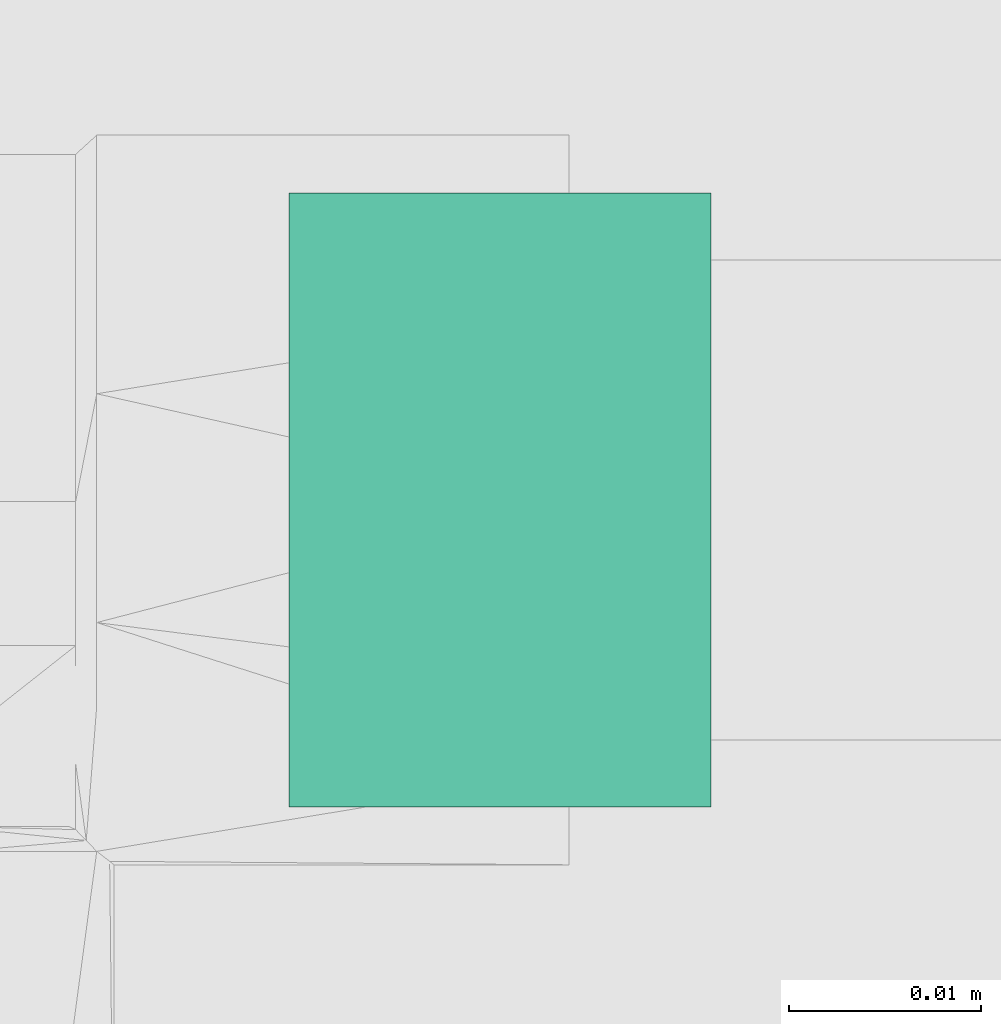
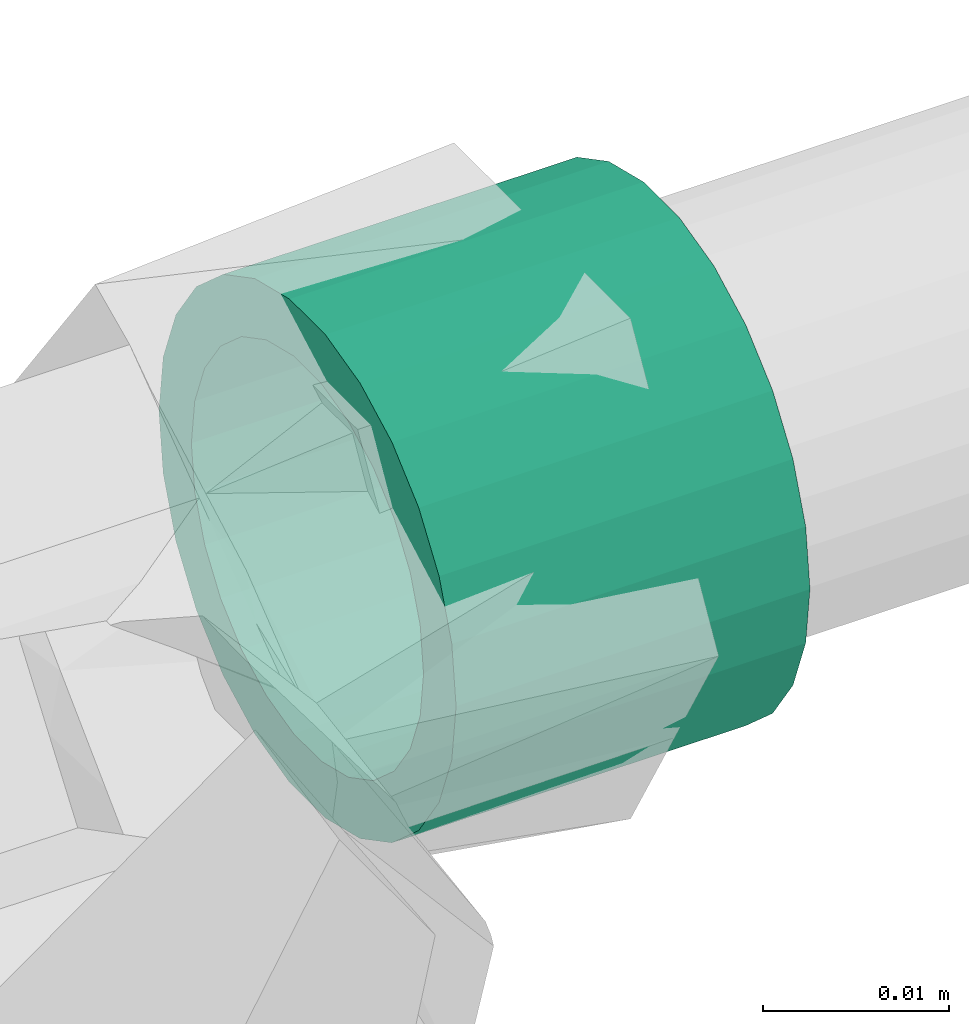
# One storey, part 152 of 166: 1 flow fitting.
"""IFC2X3 building model written with IfcOpenShell, lengths in metres."""

from ifc_helpers import new_model, entity, si_unit, converted_unit, direction, frame, frame_2d, origin, place, context, subcontext, project, spatial, hollow_circle, extrude, source, transform, mapped, material, type_object, type_shapes, element, save


model = new_model("IFC2X3")

# Units and contexts
model_context = context("Model", 3, precision=1e-05, world=origin(), true_north=direction((6.123233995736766e-17, 1.0)))
body_context = subcontext(model_context, "Body", "Model", "MODEL_VIEW")
ifc_project = project(units=[si_unit("LENGTHUNIT", "METRE"), converted_unit("PLANEANGLEUNIT", "DEGREE", entity("IfcPlaneAngleMeasure", 0.017453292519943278), si_unit("PLANEANGLEUNIT", "RADIAN"), dimensions=[0, 0, 0, 0, 0, 0, 0]), si_unit("AREAUNIT", "SQUARE_METRE")], contexts=[model_context])

# Site, building, storey
site_placement = place(None, origin())
site = spatial("IfcSite", under=ifc_project, at=site_placement, Name="Default", CompositionType="ELEMENT")
building_placement = place(site_placement, origin())
building = spatial("IfcBuilding", under=site, at=building_placement, Name="CASA DE ACOLHIDA PARA IDOSOS", CompositionType="ELEMENT")
storey_placement = place(building_placement, frame((0.0, 0.0, -1.7499999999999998)))
storey = spatial("IfcBuildingStorey", under=building, at=storey_placement, Name="IMPLANTAÇÃO DRENAGEM", CompositionType="ELEMENT", Elevation=-1.7499999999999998)

# Flow fitting
ifc_material = material(Name="PVC Marrom")
pipe_fitting_type = type_object("IfcPipeFittingType", Name="AF_Soldavel_Bucha de Reducao Curta:Standard", PredefinedType="NOTDEFINED", material=ifc_material)
shared_shape = source(origin(), body_context, "Body", "SweptSolid", [
    extrude(hollow_circle(Radius=0.016, WallThickness=0.0034999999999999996, at=frame_2d((0.0, -7.20339910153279e-17), x_axis=(1.0, 0.0))), frame((0.0, 0.0, 0.0), z_axis=(1.0, 0.0, 0.0), x_axis=(0.0, 1.0, 0.0)), (0.0, 0.0, 1.0), 0.02200000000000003),
])
type_shapes(pipe_fitting_type, [shared_shape])
flow_fitting_placement = place(storey_placement, frame((20.085253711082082, -3.545057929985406, -0.19999999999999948), z_axis=(0.0, 0.0, 1.0), x_axis=(-1.0, 0.0, 0.0)))
element("IfcFlowFitting", 1, at=flow_fitting_placement, inside=storey, type_object=pipe_fitting_type, material=ifc_material, Name="AF_Soldavel_Bucha de Reducao Curta:Standard", ObjectType="AF_Soldavel_Bucha de Reducao Curta:Standard", context=body_context, shape_type="MappedRepresentation", body=[
    mapped(shared_shape, transform((0.0, 0.0, 0.0), scale=1.0)),
])

save(model, "model.ifc")
